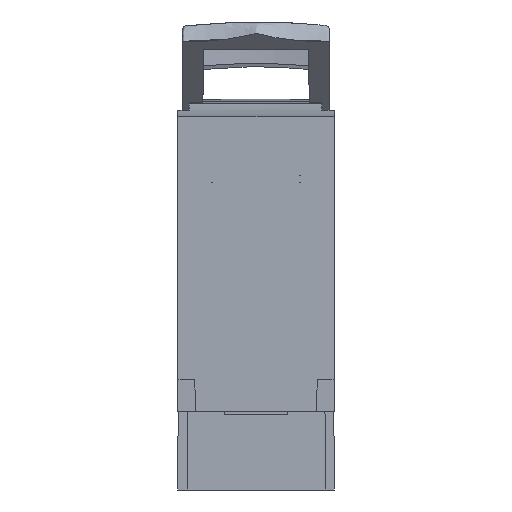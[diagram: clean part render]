
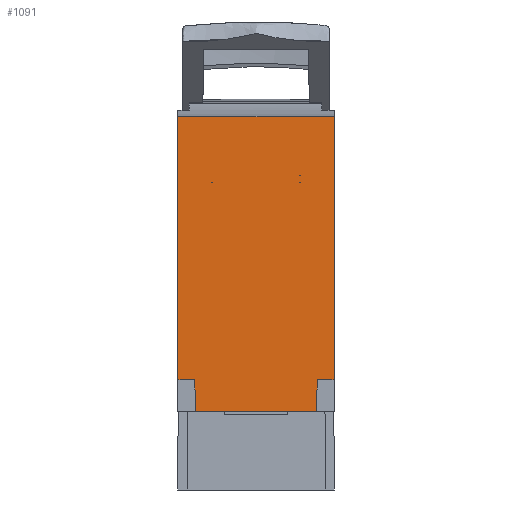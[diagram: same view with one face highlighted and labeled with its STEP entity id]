
A CAD part, left-side view. The second image highlights one B-rep face of the part: STEP entity #1091.
In plain terms, the highlighted planar face has unit normal (-1, 0, 0).
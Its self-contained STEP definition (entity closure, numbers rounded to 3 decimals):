
#244=FACE_BOUND('',#2646,.T.);
#245=FACE_BOUND('',#2647,.T.);
#246=FACE_BOUND('',#2648,.T.);
#247=FACE_BOUND('',#2649,.T.);
#627=CIRCLE('',#13304,1.15);
#628=CIRCLE('',#13307,1.15);
#629=CIRCLE('',#13310,1.15);
#750=PLANE('',#13312);
#1091=ADVANCED_FACE('',(#244,#245,#246,#247),#750,.F.);
#2646=EDGE_LOOP('',(#4945,#4946,#4947,#4948,#4949,#4950,#4951,#4952));
#2647=EDGE_LOOP('',(#4953,#4954));
#2648=EDGE_LOOP('',(#4955,#4956));
#2649=EDGE_LOOP('',(#4957,#4958));
#3535=LINE('',#16185,#4179);
#3539=LINE('',#16200,#4183);
#3541=LINE('',#16210,#4185);
#3542=LINE('',#16213,#4186);
#3543=LINE('',#16215,#4187);
#3544=LINE('',#16217,#4188);
#3545=LINE('',#16219,#4189);
#3546=LINE('',#16221,#4190);
#3547=LINE('',#16223,#4191);
#3548=LINE('',#16225,#4192);
#3549=LINE('',#16226,#4193);
#4179=VECTOR('',#13928,1.);
#4183=VECTOR('',#13938,1.);
#4185=VECTOR('',#13946,1.);
#4186=VECTOR('',#13947,1.);
#4187=VECTOR('',#13948,1.);
#4188=VECTOR('',#13949,1.);
#4189=VECTOR('',#13950,1.);
#4190=VECTOR('',#13951,1.);
#4191=VECTOR('',#13952,1.);
#4192=VECTOR('',#13953,1.);
#4193=VECTOR('',#13954,1.);
#4945=ORIENTED_EDGE('',*,*,#10204,.T.);
#4946=ORIENTED_EDGE('',*,*,#10205,.T.);
#4947=ORIENTED_EDGE('',*,*,#10206,.F.);
#4948=ORIENTED_EDGE('',*,*,#10207,.T.);
#4949=ORIENTED_EDGE('',*,*,#10208,.T.);
#4950=ORIENTED_EDGE('',*,*,#10209,.T.);
#4951=ORIENTED_EDGE('',*,*,#10210,.T.);
#4952=ORIENTED_EDGE('',*,*,#10211,.F.);
#4953=ORIENTED_EDGE('',*,*,#10212,.F.);
#4954=ORIENTED_EDGE('',*,*,#10189,.T.);
#4955=ORIENTED_EDGE('',*,*,#10194,.T.);
#4956=ORIENTED_EDGE('',*,*,#10197,.T.);
#4957=ORIENTED_EDGE('',*,*,#10200,.T.);
#4958=ORIENTED_EDGE('',*,*,#10203,.T.);
#8854=VERTEX_POINT('',#16169);
#8856=VERTEX_POINT('',#16172);
#8860=VERTEX_POINT('',#16184);
#8861=VERTEX_POINT('',#16186);
#8864=VERTEX_POINT('',#16199);
#8865=VERTEX_POINT('',#16201);
#8866=VERTEX_POINT('',#16211);
#8867=VERTEX_POINT('',#16212);
#8868=VERTEX_POINT('',#16214);
#8869=VERTEX_POINT('',#16216);
#8870=VERTEX_POINT('',#16218);
#8871=VERTEX_POINT('',#16220);
#8872=VERTEX_POINT('',#16222);
#8873=VERTEX_POINT('',#16224);
#10189=EDGE_CURVE('',#8856,#8854,#627,.T.);
#10194=EDGE_CURVE('',#8861,#8860,#3535,.T.);
#10197=EDGE_CURVE('',#8860,#8861,#628,.T.);
#10200=EDGE_CURVE('',#8865,#8864,#3539,.T.);
#10203=EDGE_CURVE('',#8864,#8865,#629,.T.);
#10204=EDGE_CURVE('',#8866,#8867,#3541,.T.);
#10205=EDGE_CURVE('',#8867,#8868,#3542,.T.);
#10206=EDGE_CURVE('',#8869,#8868,#3543,.T.);
#10207=EDGE_CURVE('',#8869,#8870,#3544,.T.);
#10208=EDGE_CURVE('',#8870,#8871,#3545,.T.);
#10209=EDGE_CURVE('',#8871,#8872,#3546,.T.);
#10210=EDGE_CURVE('',#8872,#8873,#3547,.T.);
#10211=EDGE_CURVE('',#8866,#8873,#3548,.T.);
#10212=EDGE_CURVE('',#8856,#8854,#3549,.T.);
#13304=AXIS2_PLACEMENT_3D('',#16171,#13921,#13922);
#13307=AXIS2_PLACEMENT_3D('',#16193,#13932,#13933);
#13310=AXIS2_PLACEMENT_3D('',#16208,#13942,#13943);
#13312=AXIS2_PLACEMENT_3D('',#16227,#13955,#13956);
#13921=DIRECTION('',(1.,0.,0.));
#13922=DIRECTION('',(0.,0.,-1.));
#13928=DIRECTION('',(0.,1.,-0.017));
#13932=DIRECTION('',(1.,0.,0.));
#13933=DIRECTION('',(0.,0.,-1.));
#13938=DIRECTION('',(0.,-1.,0.017));
#13942=DIRECTION('',(1.,0.,0.));
#13943=DIRECTION('',(0.,0.,-1.));
#13946=DIRECTION('',(0.,-1.,0.));
#13947=DIRECTION('',(0.,-0.017,-1.));
#13948=DIRECTION('',(0.,1.,0.));
#13949=DIRECTION('',(0.,-0.017,1.));
#13950=DIRECTION('',(0.,-1.,0.));
#13951=DIRECTION('',(0.,0.,1.));
#13952=DIRECTION('',(0.,1.,0.));
#13953=DIRECTION('',(0.,0.,1.));
#13954=DIRECTION('',(0.,1.,0.017));
#13955=DIRECTION('',(1.,0.,0.));
#13956=DIRECTION('',(0.,0.,-1.));
#16169=CARTESIAN_POINT('',(-150.,-14.01,72.901));
#16171=CARTESIAN_POINT('',(-150.,-14.05,74.05));
#16172=CARTESIAN_POINT('',(-150.,-14.05,72.9));
#16184=CARTESIAN_POINT('',(-150.,-14.01,75.199));
#16185=CARTESIAN_POINT('',(-150.,-14.05,75.2));
#16186=CARTESIAN_POINT('',(-150.,-14.05,75.2));
#16193=CARTESIAN_POINT('',(-150.,-14.05,74.05));
#16199=CARTESIAN_POINT('',(-150.,14.01,72.901));
#16200=CARTESIAN_POINT('',(-150.,14.05,72.9));
#16201=CARTESIAN_POINT('',(-150.,14.05,72.9));
#16208=CARTESIAN_POINT('',(-150.,14.05,74.05));
#16210=CARTESIAN_POINT('',(-150.,19.5,10.));
#16211=CARTESIAN_POINT('',(-150.,24.9,10.));
#16212=CARTESIAN_POINT('',(-150.,19.5,10.));
#16213=CARTESIAN_POINT('',(-150.,21.002,96.068));
#16214=CARTESIAN_POINT('',(-150.,19.325,0.));
#16215=CARTESIAN_POINT('',(-150.,24.9,0.));
#16216=CARTESIAN_POINT('',(-150.,-19.325,0.));
#16217=CARTESIAN_POINT('',(-150.,-20.987,95.199));
#16218=CARTESIAN_POINT('',(-150.,-19.5,10.));
#16219=CARTESIAN_POINT('',(-150.,-24.9,10.));
#16220=CARTESIAN_POINT('',(-150.,-24.9,10.));
#16221=CARTESIAN_POINT('',(-150.,-24.9,96.));
#16222=CARTESIAN_POINT('',(-150.,-24.9,93.846));
#16223=CARTESIAN_POINT('',(-150.,16.399,93.846));
#16224=CARTESIAN_POINT('',(-150.,24.9,93.846));
#16225=CARTESIAN_POINT('',(-150.,24.9,96.));
#16226=CARTESIAN_POINT('',(-150.,25.291,73.587));
#16227=CARTESIAN_POINT('',(-150.,24.9,96.));
